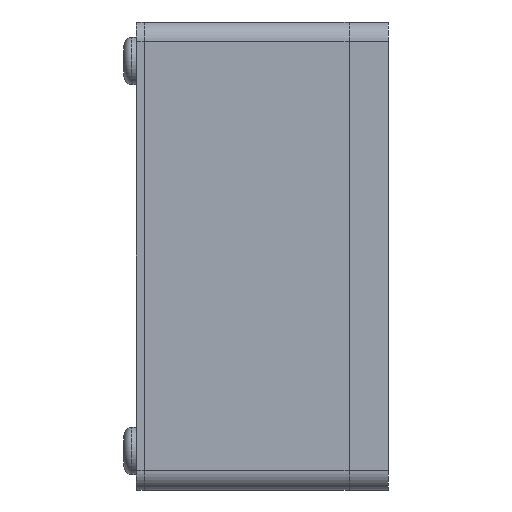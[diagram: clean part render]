
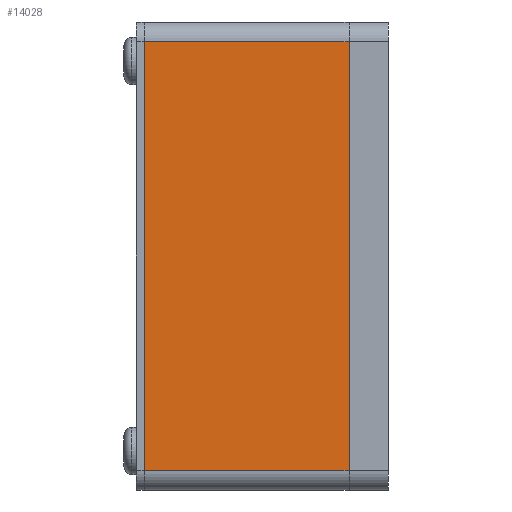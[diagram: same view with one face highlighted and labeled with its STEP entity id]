
A CAD part, left-side view. The second image highlights one B-rep face of the part: STEP entity #14028.
In plain terms, the highlighted planar face has unit normal (-1, 0, 0).
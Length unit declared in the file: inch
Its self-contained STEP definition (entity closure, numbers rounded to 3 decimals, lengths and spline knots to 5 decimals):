
#1485 = LINE ( 'NONE', #33290, #15138 ) ;
#2653 = EDGE_CURVE ( 'NONE', #7446, #17557, #42399, .T. ) ;
#4893 = VECTOR ( 'NONE', #63737, 39.37008 ) ;
#6330 = EDGE_LOOP ( 'NONE', ( #35295, #42351, #8861, #59632 ) ) ;
#7446 = VERTEX_POINT ( 'NONE', #18299 ) ;
#8861 = ORIENTED_EDGE ( 'NONE', *, *, #54327, .F. ) ;
#11854 = CARTESIAN_POINT ( 'NONE',  ( 1., 1.5625, -2.875 ) ) ;
#14028 = ADVANCED_FACE ( 'NONE', ( #45444 ), #20819, .F. ) ;
#15138 = VECTOR ( 'NONE', #38425, 39.37008 ) ;
#16319 = EDGE_CURVE ( 'NONE', #39709, #61133, #1485, .T. ) ;
#17557 = VERTEX_POINT ( 'NONE', #37391 ) ;
#18299 = CARTESIAN_POINT ( 'NONE',  ( 1., 1.5625, -0.125 ) ) ;
#18374 = DIRECTION ( 'NONE',  ( 0., 0., 1. ) ) ;
#18537 = VECTOR ( 'NONE', #18374, 39.37008 ) ;
#20819 = PLANE ( 'NONE',  #56351 ) ;
#25972 = DIRECTION ( 'NONE',  ( 1., 0., 0. ) ) ;
#33290 = CARTESIAN_POINT ( 'NONE',  ( 1., 1.5625, -2.875 ) ) ;
#34837 = CARTESIAN_POINT ( 'NONE',  ( 1., 0.25, -2.875 ) ) ;
#35295 = ORIENTED_EDGE ( 'NONE', *, *, #61503, .T. ) ;
#37391 = CARTESIAN_POINT ( 'NONE',  ( 1., 0.25, -0.125 ) ) ;
#38015 = DIRECTION ( 'NONE',  ( 0., -1., 0. ) ) ;
#38425 = DIRECTION ( 'NONE',  ( 0., -1., 0. ) ) ;
#39709 = VERTEX_POINT ( 'NONE', #11854 ) ;
#42351 = ORIENTED_EDGE ( 'NONE', *, *, #2653, .F. ) ;
#42399 = LINE ( 'NONE', #53465, #49591 ) ;
#45444 = FACE_OUTER_BOUND ( 'NONE', #6330, .T. ) ;
#45829 = LINE ( 'NONE', #48899, #4893 ) ;
#48899 = CARTESIAN_POINT ( 'NONE',  ( 1., 1.5625, -0.125 ) ) ;
#49111 = CARTESIAN_POINT ( 'NONE',  ( 1., 0.25, -0.125 ) ) ;
#49591 = VECTOR ( 'NONE', #38015, 39.37008 ) ;
#53465 = CARTESIAN_POINT ( 'NONE',  ( 1., 1.5625, -0.125 ) ) ;
#54327 = EDGE_CURVE ( 'NONE', #39709, #7446, #45829, .T. ) ;
#56351 = AXIS2_PLACEMENT_3D ( 'NONE', #56736, #25972, #61860 ) ;
#56736 = CARTESIAN_POINT ( 'NONE',  ( 1., 1.5625, -0.125 ) ) ;
#57870 = LINE ( 'NONE', #49111, #18537 ) ;
#59632 = ORIENTED_EDGE ( 'NONE', *, *, #16319, .T. ) ;
#61133 = VERTEX_POINT ( 'NONE', #34837 ) ;
#61503 = EDGE_CURVE ( 'NONE', #61133, #17557, #57870, .T. ) ;
#61860 = DIRECTION ( 'NONE',  ( 0., 0., -1. ) ) ;
#63737 = DIRECTION ( 'NONE',  ( 0., 0., 1. ) ) ;
